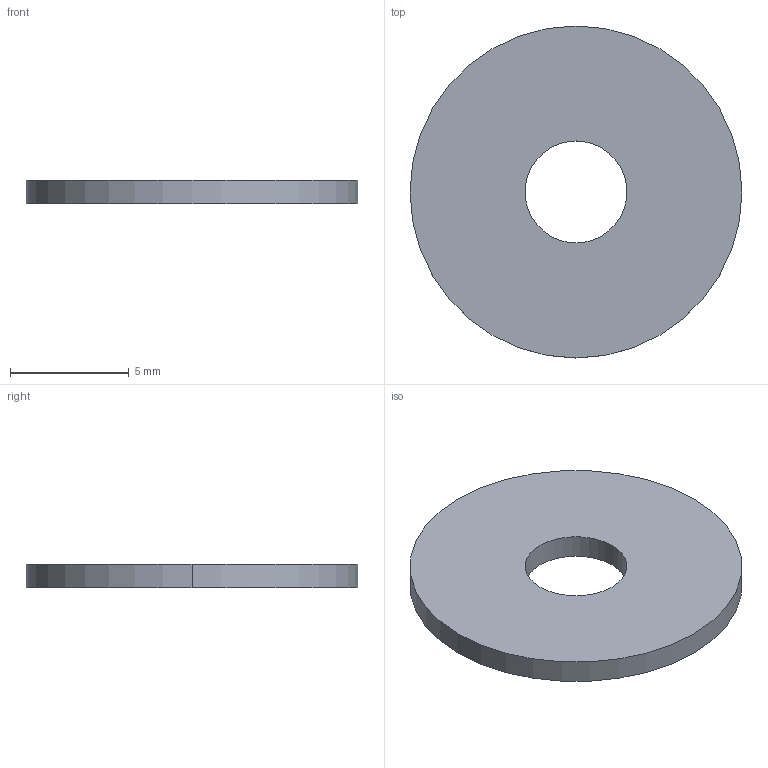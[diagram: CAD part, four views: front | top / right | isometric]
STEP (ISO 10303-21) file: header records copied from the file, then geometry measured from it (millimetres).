
FILE_DESCRIPTION (( 'STEP AP214' ), '1' );
FILE_NAME ('嵗嬥俛 兂14_1mm岤M4.STEP', '2024-08-20T02:30:15', ( '' ), ( '' ), 'SwSTEP 2.0', 'SolidWorks 2023', '' );
FILE_SCHEMA (( 'AUTOMOTIVE_DESIGN' ));
Length unit declared in the file: millimetre
Products named in the file (1): 座金Ｂ Φ14_1mm厚M4
Bounding box: 14 x 14 x 1 mm (x, y, z)
Volume: 139.4 mm3; surface area: 336.3 mm2
Topology: 1 solids, 1 shells, 6 faces, 12 edges, 8 vertices
Faces by surface type: cylinder 4, plane 2
Entity records: 191 total; most frequent: DIRECTION 34, CARTESIAN_POINT 27, ORIENTED_EDGE 24, AXIS2_PLACEMENT_3D 15, EDGE_CURVE 12, VERTEX_POINT 8, CIRCLE 8, EDGE_LOOP 8
